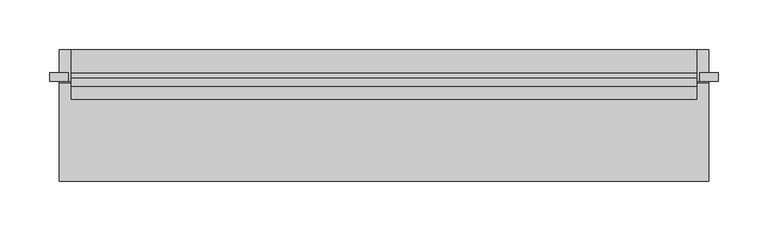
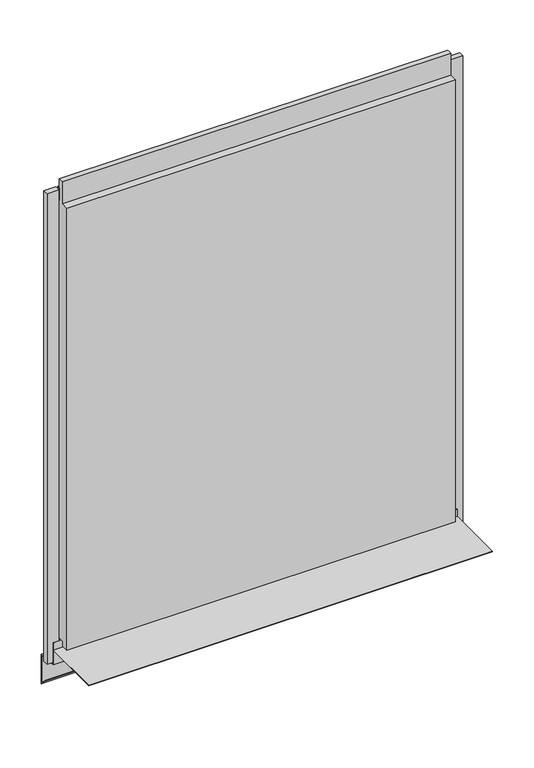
"""IFC4 building model written with IfcOpenShell, lengths in millimetres: plate geometry, Trimo_Qbiss Screen_Normal Panel-HORIZONTAL : HR - B."""

import ifcopenshell
import ifcopenshell.guid

model = None  # the IFC model being written
_history = None  # IfcOwnerHistory: only IFC2X3 demands one
_inside = {}  # id of a spatial element -> (the spatial element, [elements in it])
_under = {}  # id of a project, library or spatial element -> (it, [spatial elements below it])
_declared = {}  # id of a project -> (the project, [libraries it declares])
_typed = {}  # id of a type object -> (the type object, [elements of that type])
_made_of = {}  # id of a material, layer set ... -> (it, [elements and type objects made of it])


def new_model(schema):
    """Start an empty IFC model of exactly this schema.

    Asked for "IFC4X3", IfcOpenShell would pick the latest addendum, in which some entities
    have other attributes; the version numbers below select the first issue.
    IFC2X3 requires an IfcOwnerHistory on every rooted entity: one is made here for all.
    """
    global model, _history
    if schema == "IFC4X3":
        model = ifcopenshell.file(schema_version=(4, 3, 0, 0))
    else:
        model = ifcopenshell.file(schema=schema)
    _inside.clear()
    _under.clear()
    _declared.clear()
    _typed.clear()
    _made_of.clear()
    _history = None
    if model.schema == "IFC2X3":
        org = make("IfcOrganization", Name="unknown")
        user = make(
            "IfcPersonAndOrganization",
            ThePerson=make("IfcPerson", FamilyName="unknown"),
            TheOrganization=org,
        )
        app = make(
            "IfcApplication",
            ApplicationDeveloper=org,
            Version="unknown",
            ApplicationFullName="unknown",
            ApplicationIdentifier="unknown",
        )
        _history = make(
            "IfcOwnerHistory",
            OwningUser=user,
            OwningApplication=app,
            ChangeAction="ADDED",
            CreationDate=0,
        )
    return model


def make(cls, **values):
    """One entity of the class cls with the attributes given. An attribute that is None is left unset."""
    return model.create_entity(
        cls, **{name: value for name, value in values.items() if value is not None}
    )


def rooted(cls, **values):
    """An entity with a GlobalId (a new one), such as an element, a storey or a relation."""
    return make(cls, GlobalId=ifcopenshell.guid.new(), OwnerHistory=_history, **values)


def si_unit(unit_type, name, prefix=None):
    """IfcSIUnit, for example si_unit("LENGTHUNIT", "METRE", prefix="MILLI")."""
    return make("IfcSIUnit", UnitType=unit_type, Prefix=prefix, Name=name)


def assignment(units):
    """IfcUnitAssignment: the units of a project."""
    return None if units is None else make("IfcUnitAssignment", Units=units)


def point(xyz):
    """IfcCartesianPoint."""
    return None if xyz is None else make("IfcCartesianPoint", Coordinates=xyz)


def direction(xyz):
    """IfcDirection."""
    return None if xyz is None else make("IfcDirection", DirectionRatios=xyz)


def frame(location, z_axis=None, x_axis=None):
    """IfcAxis2Placement3D, a coordinate frame: its origin and axes. An axis left out is left unset."""
    return make(
        "IfcAxis2Placement3D",
        Location=point(location),
        Axis=direction(z_axis),
        RefDirection=direction(x_axis),
    )


def origin():
    """The frame at (0, 0, 0) with its axes left unset."""
    return frame((0.0, 0.0, 0.0))


def place(relative_to, where):
    """IfcLocalPlacement: puts the frame where relative to a parent placement (None: the world)."""
    return make(
        "IfcLocalPlacement", PlacementRelTo=relative_to, RelativePlacement=where
    )


def context(
    kind, dimensions, precision=None, world=None, true_north=None, identifier=None
):
    """IfcGeometricRepresentationContext, for example the 3D "Model" context."""
    return make(
        "IfcGeometricRepresentationContext",
        ContextIdentifier=identifier,
        ContextType=kind,
        CoordinateSpaceDimension=dimensions,
        Precision=precision,
        WorldCoordinateSystem=world,
        TrueNorth=true_north,
    )


def project(units=None, contexts=None):
    """IfcProject with its units and contexts."""
    return rooted(
        "IfcProject",
        Name="project",
        RepresentationContexts=contexts,
        UnitsInContext=assignment(units),
    )


def spatial(cls, under=None, at=None, **own):
    """A site, building, storey or space (cls), placed at a placement, below another one or the project."""
    s = rooted(cls, ObjectPlacement=at, **own)
    if under is not None:
        _under.setdefault(under.id(), (under, []))[1].append(s)
    return s


def polyline(points):
    """IfcPolyline through the points."""
    return make("IfcPolyline", Points=[point(p) for p in points])


def outline(outer, holes=None, kind="AREA"):
    """IfcArbitraryClosedProfileDef: a profile drawn as a closed curve; with holes, ...WithVoids."""
    if holes is None:
        return make("IfcArbitraryClosedProfileDef", ProfileType=kind, OuterCurve=outer)
    return make(
        "IfcArbitraryProfileDefWithVoids",
        ProfileType=kind,
        OuterCurve=outer,
        InnerCurves=holes,
    )


def extrude(swept, where, along, depth):
    """IfcExtrudedAreaSolid: the profile swept, set in the frame where, extruded along a direction by depth."""
    return make(
        "IfcExtrudedAreaSolid",
        SweptArea=swept,
        Position=where,
        ExtrudedDirection=direction(along),
        Depth=depth,
    )


def shape(context_of_items, identifier, shape_type, items):
    """IfcShapeRepresentation: the items that make up one representation, for example the "Body"."""
    return make(
        "IfcShapeRepresentation",
        ContextOfItems=context_of_items,
        RepresentationIdentifier=identifier,
        RepresentationType=shape_type,
        Items=items,
    )


def source(mapping_origin, context_of_items, identifier, shape_type, items):
    """IfcRepresentationMap: a shape defined once, which mapped items show again and again."""
    return make(
        "IfcRepresentationMap",
        MappingOrigin=mapping_origin,
        MappedRepresentation=shape(context_of_items, identifier, shape_type, items),
    )


def transform(
    local_origin,
    x_axis=None,
    y_axis=None,
    z_axis=None,
    scale=None,
    scale2=None,
    scale3=None,
    uniform=True,
):
    """IfcCartesianTransformationOperator3D, or its non-uniform kind. x_axis, y_axis, z_axis: its Axis1, 2, 3."""
    if uniform:
        return make(
            "IfcCartesianTransformationOperator3D",
            Axis1=direction(x_axis),
            Axis2=direction(y_axis),
            LocalOrigin=point(local_origin),
            Scale=scale,
            Axis3=direction(z_axis),
        )
    return make(
        "IfcCartesianTransformationOperator3DnonUniform",
        Axis1=direction(x_axis),
        Axis2=direction(y_axis),
        LocalOrigin=point(local_origin),
        Scale=scale,
        Axis3=direction(z_axis),
        Scale2=scale2,
        Scale3=scale3,
    )


def mapped(mapping_source, mapping_target):
    """IfcMappedItem: shows the shape of a source again, moved by a transform."""
    return make(
        "IfcMappedItem", MappingSource=mapping_source, MappingTarget=mapping_target
    )


def made_of(thing, what):
    """Note that an element or type object is made of a material, layer set ...; save() writes the relation."""
    if what is not None:
        _made_of.setdefault(what.id(), (what, []))[1].append(thing)
    return thing


def element(
    cls,
    number,
    at=None,
    inside=None,
    cuts=None,
    type_object=None,
    material=None,
    context=None,
    identifier="Body",
    shape_type=None,
    held_by="IfcProductDefinitionShape",
    body=None,
    shapes=None,
    **own,
):
    """One element of the class cls, such as IfcWall. Its Tag is "e" and its number.

    at: its placement. inside: the storey or other place that contains it. cuts: it is an
    opening in that element (IfcRelVoidsElement). A single representation is given by context,
    identifier, shape_type and body (its items); several are given by shapes. held_by: the class
    of the entity that holds the representations. save() writes the other relations.
    """
    e = rooted(cls, Tag="e%d" % number, ObjectPlacement=at, **own)
    if body is not None:
        shapes = [shape(context, identifier, shape_type, body)]
    if shapes is not None:
        e.Representation = make(held_by, Representations=shapes)
    if inside is not None:
        _inside.setdefault(inside.id(), (inside, []))[1].append(e)
    if cuts is not None:
        rooted(
            "IfcRelVoidsElement", RelatingBuildingElement=cuts, RelatedOpeningElement=e
        )
    if type_object is not None:
        _typed.setdefault(type_object.id(), (type_object, []))[1].append(e)
    return made_of(e, material)


def aggregate(whole, parts):
    """IfcRelAggregates: a whole, such as a stair, and the parts it consists of."""
    return rooted("IfcRelAggregates", RelatingObject=whole, RelatedObjects=parts)


def save(model, path):
    """Write the relations noted so far, then the file.

    IfcRelAggregates (storeys below a building ...), IfcRelContainedInSpatialStructure (elements
    in a storey), IfcRelDefinesByType, IfcRelAssociatesMaterial and IfcRelDeclares: one each for
    every whole, place, type object, material and project.
    """
    for whole, parts in _under.values():
        aggregate(whole, parts)
    for where, things in _inside.values():
        rooted(
            "IfcRelContainedInSpatialStructure",
            RelatedElements=things,
            RelatingStructure=where,
        )
    for kind, things in _typed.values():
        rooted("IfcRelDefinesByType", RelatedObjects=things, RelatingType=kind)
    for what, things in _made_of.values():
        rooted("IfcRelAssociatesMaterial", RelatedObjects=things, RelatingMaterial=what)
    for by, libraries in _declared.values():
        rooted("IfcRelDeclares", RelatingContext=by, RelatedDefinitions=libraries)
    model.write(path)


def plate_8f59ef12(model_context):
    return source(origin(), model_context, "Body", "SweptSolid", [
        extrude(outline(polyline([(66.7, 14.0835797), (67.5, 14.0835797), (67.5, -23.0), (100.0, -25.8433816), (100.0, -76.0), (87.1509533, -63.1509533), (87.7166388, -62.5852679), (99.2, -74.0686292), (99.2, -26.5764465), (66.7, -23.7330649), (66.7, 1.0), (-32.5, 1.0), (-32.5, 1.8), (66.7, 1.8), (66.7, 14.0835797)])), frame((-327.5, 0.0, 0.0), z_axis=(1.0, 0.0, 0.0), x_axis=(0.0, 1.0, 0.0)), (0.0, 0.0, 1.0), 655.0),
        extrude(outline(polyline([(-318.0, 76.5978162), (-318.0, 67.8978162), (-337.0, 67.8978162), (-337.0, 76.5978162), (-318.0, 76.5978162)])), frame((0.0, 0.0, -20.0), z_axis=(0.0, 0.0, 1.0), x_axis=(1.0, 0.0, 0.0)), (0.0, 0.0, 1.0), 806.95),
        extrude(outline(polyline([(318.0, 67.8978162), (318.0, 76.5978162), (337.0, 76.5978162), (337.0, 67.8978162), (318.0, 67.8978162)])), frame((0.0, 0.0, -20.0), z_axis=(0.0, 0.0, 1.0), x_axis=(1.0, 0.0, 0.0)), (0.0, 0.0, 1.0), 806.95),
        extrude(outline(polyline([(315.0, 76.0), (315.0, 71.0), (-315.0, 71.0), (-315.0, 76.0), (315.0, 76.0)])), frame((0.0, 0.0, 765.95), z_axis=(0.0, 0.0, 1.0), x_axis=(1.0, 0.0, 0.0)), (0.0, 0.0, 1.0), 21.0),
        extrude(outline(polyline([(71.0, 764.95), (100.0, 764.95), (100.0, 0.0), (72.0, 0.0), (72.0, 15.5), (62.0, 15.5), (62.0, 7.0), (50.0, 7.0), (50.0, 764.95), (63.0, 764.95), (63.0, 802.45), (71.0, 802.45), (71.0, 764.95)])), frame((-315.0, 0.0, 0.0), z_axis=(1.0, 0.0, 0.0), x_axis=(0.0, 1.0, 0.0)), (0.0, 0.0, 1.0), 630.0),
    ])


if __name__ == "__main__":
    model = new_model("IFC4")
    model_context = context("Model", 3, world=origin())
    ifc_project = project(units=[si_unit("LENGTHUNIT", "METRE", prefix="MILLI")], contexts=[model_context])
    site = spatial("IfcSite", under=ifc_project)
    building = spatial("IfcBuilding", under=site)
    placement = place(None, origin())
    plate_shape = plate_8f59ef12(model_context)
    element("IfcPlate", 1, ObjectType="Trimo_Qbiss Screen_Normal Panel-HORIZONTAL : HR - B", at=placement, inside=building, context=model_context, shape_type="MappedRepresentation", body=[
        mapped(plate_shape, transform((0.0, 0.0, 0.0), x_axis=(1.0, 0.0, 0.0), y_axis=(0.0, 1.0, 0.0), z_axis=(0.0, 0.0, 1.0))),
    ])
    save(model, "model.ifc")
